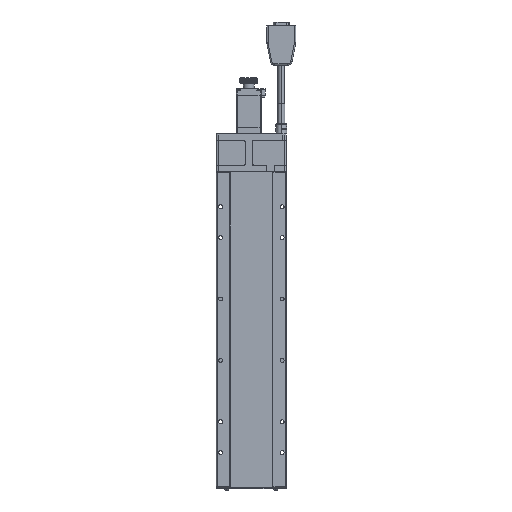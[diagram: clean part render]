
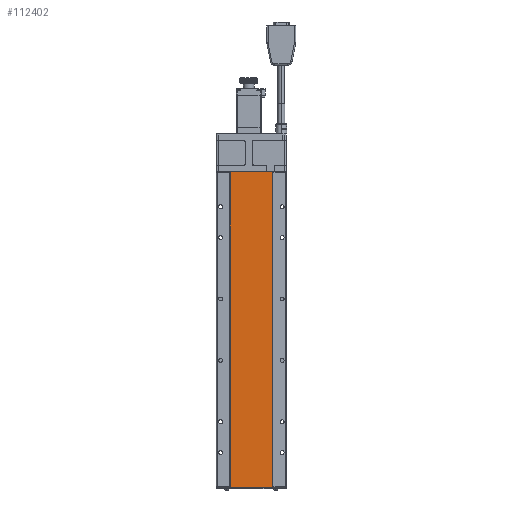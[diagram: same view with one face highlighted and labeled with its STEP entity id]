
A CAD part, front view. The second image highlights one B-rep face of the part: STEP entity #112402.
In plain terms, the highlighted planar face has unit normal (0, -1, 0).
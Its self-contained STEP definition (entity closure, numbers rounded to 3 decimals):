
#621 = EDGE_CURVE ( 'NONE', #63518, #137321, #146088, .T. ) ;
#1872 = CARTESIAN_POINT ( 'NONE',  ( 104.597, 64.1, 59.118 ) ) ;
#6247 = PLANE ( 'NONE',  #23532 ) ;
#12609 = DIRECTION ( 'NONE',  ( -1., 0., 0. ) ) ;
#16119 = LINE ( 'NONE', #29644, #52340 ) ;
#18999 = CARTESIAN_POINT ( 'NONE',  ( 55.997, 64.1, 418.718 ) ) ;
#23532 = AXIS2_PLACEMENT_3D ( 'NONE', #18999, #54873, #103523 ) ;
#27096 = ORIENTED_EDGE ( 'NONE', *, *, #72757, .T. ) ;
#29644 = CARTESIAN_POINT ( 'NONE',  ( 104.597, 64.1, 59.118 ) ) ;
#48021 = EDGE_CURVE ( 'NONE', #137321, #142230, #16119, .T. ) ;
#52340 = VECTOR ( 'NONE', #77514, 1000. ) ;
#54873 = DIRECTION ( 'NONE',  ( 0., 1., 0. ) ) ;
#62716 = CARTESIAN_POINT ( 'NONE',  ( 55.997, 64.1, 59.118 ) ) ;
#63028 = DIRECTION ( 'NONE',  ( 1., 0., 0. ) ) ;
#63518 = VERTEX_POINT ( 'NONE', #91939 ) ;
#72757 = EDGE_CURVE ( 'NONE', #97670, #63518, #85895, .T. ) ;
#77514 = DIRECTION ( 'NONE',  ( 0., 0., 1. ) ) ;
#81679 = ORIENTED_EDGE ( 'NONE', *, *, #48021, .T. ) ;
#85895 = LINE ( 'NONE', #62716, #128769 ) ;
#91939 = CARTESIAN_POINT ( 'NONE',  ( 55.997, 64.1, 59.118 ) ) ;
#97670 = VERTEX_POINT ( 'NONE', #98086 ) ;
#98086 = CARTESIAN_POINT ( 'NONE',  ( 55.997, 64.1, 418.718 ) ) ;
#103523 = DIRECTION ( 'NONE',  ( -1., 0., 0. ) ) ;
#103704 = ORIENTED_EDGE ( 'NONE', *, *, #119019, .T. ) ;
#112402 = ADVANCED_FACE ( 'NONE', ( #139483 ), #6247, .F. ) ;
#113426 = CARTESIAN_POINT ( 'NONE',  ( 104.597, 64.1, 418.718 ) ) ;
#119019 = EDGE_CURVE ( 'NONE', #142230, #97670, #148194, .T. ) ;
#121468 = VECTOR ( 'NONE', #12609, 1000. ) ;
#122567 = ORIENTED_EDGE ( 'NONE', *, *, #621, .T. ) ;
#122618 = VECTOR ( 'NONE', #63028, 1000. ) ;
#122680 = CARTESIAN_POINT ( 'NONE',  ( 55.997, 64.1, 418.718 ) ) ;
#122908 = CARTESIAN_POINT ( 'NONE',  ( 55.997, 64.1, 59.118 ) ) ;
#128769 = VECTOR ( 'NONE', #147318, 1000. ) ;
#137321 = VERTEX_POINT ( 'NONE', #1872 ) ;
#139483 = FACE_OUTER_BOUND ( 'NONE', #140024, .T. ) ;
#140024 = EDGE_LOOP ( 'NONE', ( #27096, #122567, #81679, #103704 ) ) ;
#142230 = VERTEX_POINT ( 'NONE', #113426 ) ;
#146088 = LINE ( 'NONE', #122908, #122618 ) ;
#147318 = DIRECTION ( 'NONE',  ( 0., 0., -1. ) ) ;
#148194 = LINE ( 'NONE', #122680, #121468 ) ;
